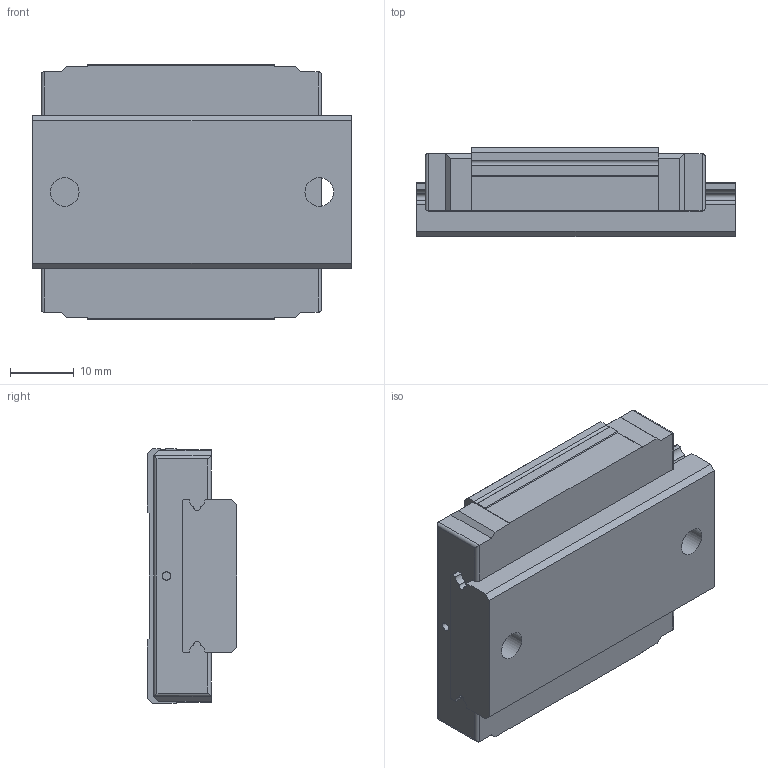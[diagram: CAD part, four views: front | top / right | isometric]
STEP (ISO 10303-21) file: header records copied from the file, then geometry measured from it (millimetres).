
FILE_DESCRIPTION( ( 'STEP AP214' ), '1' );
FILE_NAME( 'G:/品牌/AZI工艺/滑块/GGC/GGC12AK.stp', '2024-01-19T03:40:23', ( 'License CC BY-ND 4.0' ), ( 'CADENAS' ), ' ', 'PARTsolutions', ' ' );
FILE_SCHEMA( ( 'AUTOMOTIVE_DESIGN { 1 0 10303 214 1 1 1 1 }' ) );
Length unit declared in the file: millimetre
Products named in the file (3): ZCEW14-50-(23.3-0-0); _ZTCEW14-50; _ZZCEW14
Assembly tree (2 placements, depth 2):
  ZCEW14-50-(23.3-0-0)
    _ZTCEW14-50
    _ZZCEW14
Bounding box: 50 x 14 x 40 mm (x, y, z)
Volume: 21263 mm3; surface area: 9671.9 mm2
Topology: 2 solids, 2 shells, 102 faces, 262 edges, 168 vertices
Faces by surface type: plane 57, cylinder 37, cone 8
Full cylindrical faces by diameter (mm): 1.3 x2, 2.459 x4, 4.5 x2, 8 x2
Entity records: 3844 total; most frequent: DIRECTION 520, CARTESIAN_POINT 513, ORIENTED_EDGE 480, EDGE_CURVE 240, AXIS2_PLACEMENT_3D 175, LINE 170, VECTOR 170, VERTEX_POINT 168
